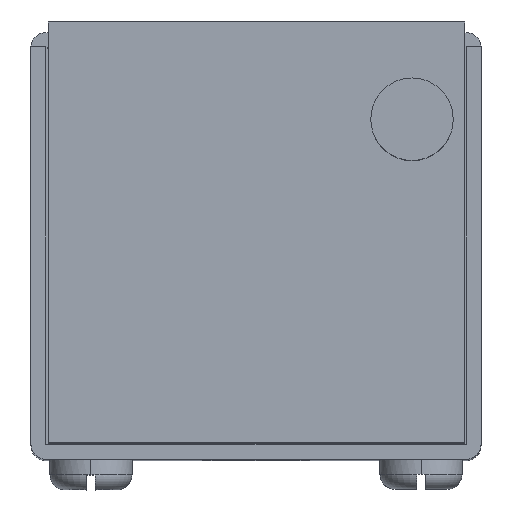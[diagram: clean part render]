
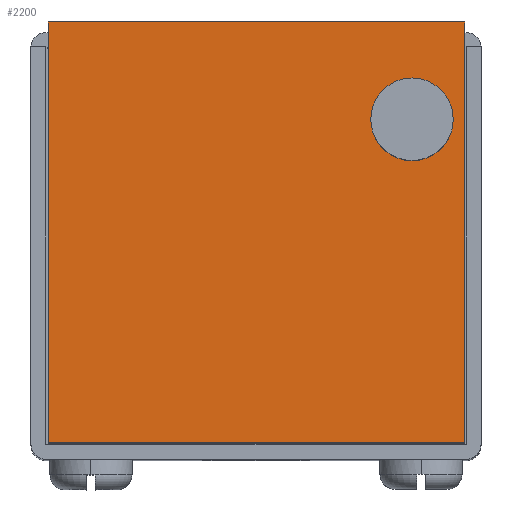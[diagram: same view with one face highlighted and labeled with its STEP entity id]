
A CAD part, top view. The second image highlights one B-rep face of the part: STEP entity #2200.
In plain terms, the highlighted planar face has unit normal (0, 0, 1).
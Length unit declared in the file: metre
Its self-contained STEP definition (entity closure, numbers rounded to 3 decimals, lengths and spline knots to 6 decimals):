
#75 = VERTEX_POINT ( 'NONE', #2346 ) ;
#82 = VERTEX_POINT ( 'NONE', #2339 ) ;
#92 = VERTEX_POINT ( 'NONE', #659 ) ;
#94 = VERTEX_POINT ( 'NONE', #996 ) ;
#99 = VERTEX_POINT ( 'NONE', #961 ) ;
#100 = VERTEX_POINT ( 'NONE', #1055 ) ;
#136 = ORIENTED_EDGE ( 'NONE', *, *, #3424, .T. ) ;
#156 = ORIENTED_EDGE ( 'NONE', *, *, #3381, .F. ) ;
#181 = ORIENTED_EDGE ( 'NONE', *, *, #3386, .F. ) ;
#199 = ORIENTED_EDGE ( 'NONE', *, *, #3409, .F. ) ;
#256 = ORIENTED_EDGE ( 'NONE', *, *, #3405, .T. ) ;
#345 = ORIENTED_EDGE ( 'NONE', *, *, #3376, .T. ) ;
#659 = CARTESIAN_POINT ( 'NONE',  ( 0.01315, 0.00715, 0.0538 ) ) ;
#713 = DIRECTION ( 'NONE',  ( 1., 0., 0. ) ) ;
#715 = PLANE ( 'NONE',  #2858 ) ;
#718 = CARTESIAN_POINT ( 'NONE',  ( 0., 0., 0.0538 ) ) ;
#726 = DIRECTION ( 'NONE',  ( 0., 0., 1. ) ) ;
#961 = CARTESIAN_POINT ( 'NONE',  ( -0.01385, 0.01365, 0.0538 ) ) ;
#996 = CARTESIAN_POINT ( 'NONE',  ( -0.01385, -0.01435, 0.0538 ) ) ;
#1055 = CARTESIAN_POINT ( 'NONE',  ( 0.00765, 0.00715, 0.0538 ) ) ;
#1113 = FACE_OUTER_BOUND ( 'NONE', #1869, .T. ) ;
#1119 = FACE_BOUND ( 'NONE', #1867, .T. ) ;
#1867 = EDGE_LOOP ( 'NONE', ( #199, #156 ) ) ;
#1869 = EDGE_LOOP ( 'NONE', ( #136, #256, #345, #181 ) ) ;
#1971 = CARTESIAN_POINT ( 'NONE',  ( -0.01385, 0.01365, 0.0538 ) ) ;
#1987 = DIRECTION ( 'NONE',  ( 1., 0., 0. ) ) ;
#1988 = DIRECTION ( 'NONE',  ( 0., 0., 1. ) ) ;
#1991 = CARTESIAN_POINT ( 'NONE',  ( 0.0104, 0.00715, 0.0538 ) ) ;
#2038 = DIRECTION ( 'NONE',  ( 0., 1., 0. ) ) ;
#2040 = CARTESIAN_POINT ( 'NONE',  ( 0.0139, 0.012, 0.0538 ) ) ;
#2127 = DIRECTION ( 'NONE',  ( 1., 0., 0. ) ) ;
#2200 = ADVANCED_FACE ( 'NONE', ( #1113, #1119 ), #715, .T. ) ;
#2339 = CARTESIAN_POINT ( 'NONE',  ( 0.0139, -0.01435, 0.0538 ) ) ;
#2346 = CARTESIAN_POINT ( 'NONE',  ( 0.0139, 0.01365, 0.0538 ) ) ;
#2858 = AXIS2_PLACEMENT_3D ( 'NONE', #718, #726, #713 ) ;
#3009 = AXIS2_PLACEMENT_3D ( 'NONE', #1991, #1988, #1987 ) ;
#3021 = AXIS2_PLACEMENT_3D ( 'NONE', #3605, #3604, #3603 ) ;
#3211 = LINE ( 'NONE', #2040, #3213 ) ;
#3212 = CIRCLE ( 'NONE', #3009, 0.00275 ) ;
#3213 = VECTOR ( 'NONE', #2038, 1. ) ;
#3222 = LINE ( 'NONE', #1971, #3226 ) ;
#3226 = VECTOR ( 'NONE', #2127, 1. ) ;
#3249 = LINE ( 'NONE', #3624, #3252 ) ;
#3252 = VECTOR ( 'NONE', #3623, 1. ) ;
#3256 = CIRCLE ( 'NONE', #3021, 0.00275 ) ;
#3282 = LINE ( 'NONE', #3570, #3285 ) ;
#3285 = VECTOR ( 'NONE', #3567, 1. ) ;
#3376 = EDGE_CURVE ( 'NONE', #82, #75, #3211, .T. ) ;
#3381 = EDGE_CURVE ( 'NONE', #92, #100, #3212, .T. ) ;
#3386 = EDGE_CURVE ( 'NONE', #99, #75, #3222, .T. ) ;
#3405 = EDGE_CURVE ( 'NONE', #94, #82, #3249, .T. ) ;
#3409 = EDGE_CURVE ( 'NONE', #100, #92, #3256, .T. ) ;
#3424 = EDGE_CURVE ( 'NONE', #99, #94, #3282, .T. ) ;
#3567 = DIRECTION ( 'NONE',  ( 0., -1., 0. ) ) ;
#3570 = CARTESIAN_POINT ( 'NONE',  ( -0.01385, 0.012, 0.0538 ) ) ;
#3603 = DIRECTION ( 'NONE',  ( 1., 0., 0. ) ) ;
#3604 = DIRECTION ( 'NONE',  ( 0., 0., 1. ) ) ;
#3605 = CARTESIAN_POINT ( 'NONE',  ( 0.0104, 0.00715, 0.0538 ) ) ;
#3623 = DIRECTION ( 'NONE',  ( 1., 0., 0. ) ) ;
#3624 = CARTESIAN_POINT ( 'NONE',  ( -0.01385, -0.01435, 0.0538 ) ) ;
